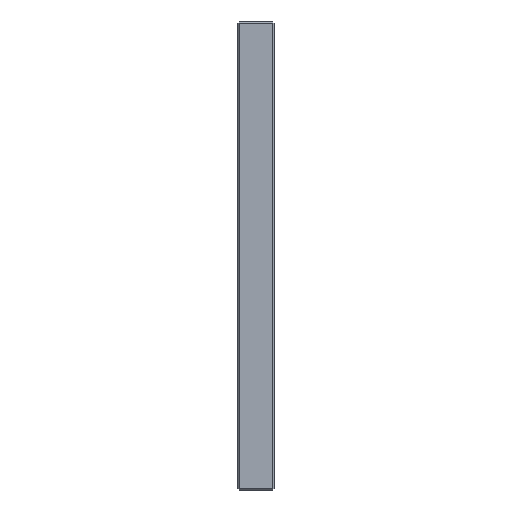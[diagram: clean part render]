
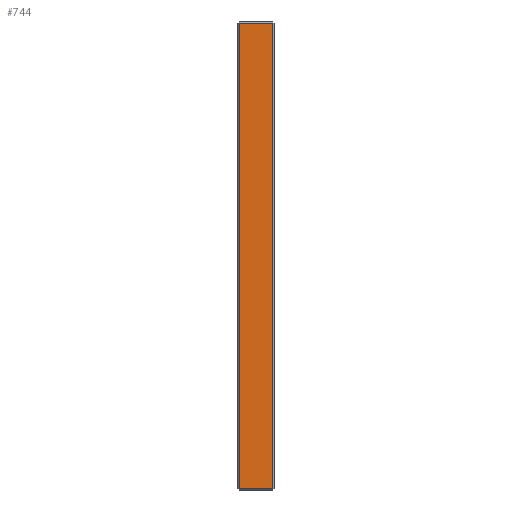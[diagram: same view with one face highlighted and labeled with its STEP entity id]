
A CAD part, left-side view. The second image highlights one B-rep face of the part: STEP entity #744.
In plain terms, the highlighted planar face has unit normal (-1, 0, 0).
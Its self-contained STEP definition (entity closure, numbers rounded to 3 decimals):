
#22 = CARTESIAN_POINT ( 'NONE',  ( -198., 27., 173. ) ) ;
#49 = EDGE_CURVE ( 'NONE', #1125, #325, #250, .T. ) ;
#69 = VERTEX_POINT ( 'NONE', #905 ) ;
#112 = LINE ( 'NONE', #548, #1703 ) ;
#197 = CARTESIAN_POINT ( 'NONE',  ( -198., 27., 172. ) ) ;
#200 = DIRECTION ( 'NONE',  ( 0., 1., 0. ) ) ;
#228 = PLANE ( 'NONE',  #907 ) ;
#250 = LINE ( 'NONE', #945, #353 ) ;
#260 = DIRECTION ( 'NONE',  ( 1., 0., 0. ) ) ;
#270 = DIRECTION ( 'NONE',  ( 0., 0., -1. ) ) ;
#293 = ORIENTED_EDGE ( 'NONE', *, *, #2199, .T. ) ;
#315 = CARTESIAN_POINT ( 'NONE',  ( -198., 1., -172. ) ) ;
#325 = VERTEX_POINT ( 'NONE', #2280 ) ;
#353 = VECTOR ( 'NONE', #1142, 1000. ) ;
#365 = ORIENTED_EDGE ( 'NONE', *, *, #49, .T. ) ;
#433 = ORIENTED_EDGE ( 'NONE', *, *, #568, .T. ) ;
#539 = DIRECTION ( 'NONE',  ( 0., -1., 0. ) ) ;
#548 = CARTESIAN_POINT ( 'NONE',  ( -198., 27., -172. ) ) ;
#568 = EDGE_CURVE ( 'NONE', #325, #2158, #112, .T. ) ;
#636 = ORIENTED_EDGE ( 'NONE', *, *, #678, .T. ) ;
#678 = EDGE_CURVE ( 'NONE', #2158, #69, #1727, .T. ) ;
#744 = ADVANCED_FACE ( 'NONE', ( #1520 ), #228, .F. ) ;
#905 = CARTESIAN_POINT ( 'NONE',  ( -198., 1., 172. ) ) ;
#907 = AXIS2_PLACEMENT_3D ( 'NONE', #22, #260, #270 ) ;
#927 = LINE ( 'NONE', #197, #2211 ) ;
#945 = CARTESIAN_POINT ( 'NONE',  ( -198., 26., -173. ) ) ;
#1053 = VECTOR ( 'NONE', #1748, 1000. ) ;
#1125 = VERTEX_POINT ( 'NONE', #1263 ) ;
#1142 = DIRECTION ( 'NONE',  ( 0., 0., -1. ) ) ;
#1263 = CARTESIAN_POINT ( 'NONE',  ( -198., 26., 172. ) ) ;
#1520 = FACE_OUTER_BOUND ( 'NONE', #1944, .T. ) ;
#1703 = VECTOR ( 'NONE', #539, 1000. ) ;
#1727 = LINE ( 'NONE', #1791, #1053 ) ;
#1748 = DIRECTION ( 'NONE',  ( 0., 0., 1. ) ) ;
#1791 = CARTESIAN_POINT ( 'NONE',  ( -198., 1., 173. ) ) ;
#1944 = EDGE_LOOP ( 'NONE', ( #433, #636, #293, #365 ) ) ;
#2158 = VERTEX_POINT ( 'NONE', #315 ) ;
#2199 = EDGE_CURVE ( 'NONE', #69, #1125, #927, .T. ) ;
#2211 = VECTOR ( 'NONE', #200, 1000. ) ;
#2280 = CARTESIAN_POINT ( 'NONE',  ( -198., 26., -172. ) ) ;
